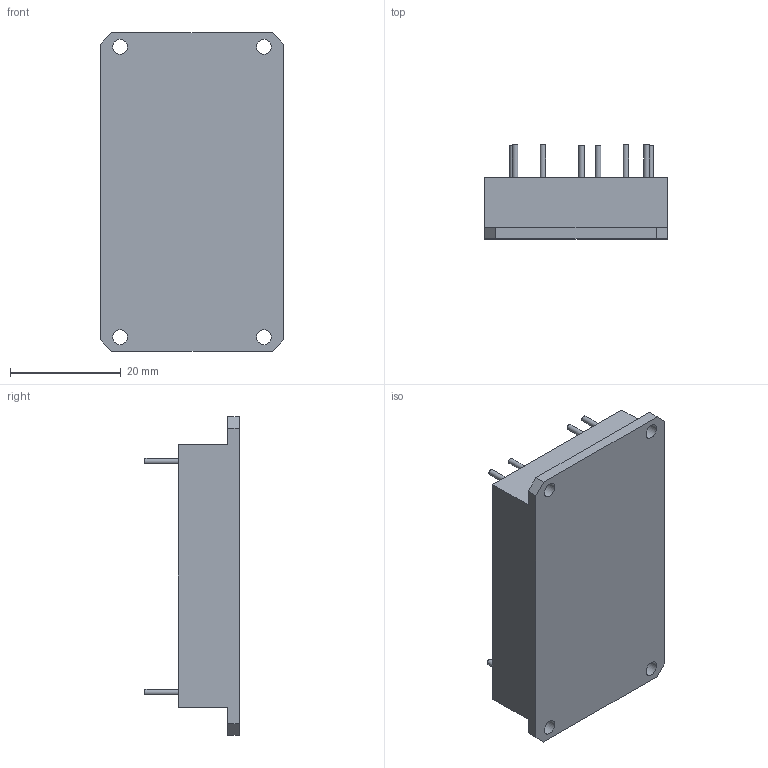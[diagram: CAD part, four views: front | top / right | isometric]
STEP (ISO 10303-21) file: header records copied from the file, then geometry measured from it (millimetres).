
FILE_DESCRIPTION(/* description */ (''),/* implementation_level */ '2;1');
FILE_NAME(/* name */ '',/* time_stamp */ '2020-02-18T13:51:53+01:00',/* author */ (''),/* organization */ (''),/* preprocessor_version */ 'ST-DEVELOPER v16.5',/* originating_system */ '',/* authorisation */ '');
FILE_SCHEMA (('AUTOMOTIVE_DESIGN { 1 0 10303 214 3 1 1 }'));
Length unit declared in the file: millimetre
Products named in the file (1): TESND60-F1_D_case_pins
Bounding box: 33 x 17 x 57.5 mm (x, y, z)
Volume: 16454.5 mm3; surface area: 5931.1 mm2
Topology: 1 solids, 2 shells, 45 faces, 99 edges, 66 vertices
Faces by surface type: plane 28, cylinder 16, cone 1
Full cylindrical faces by diameter (mm): 1 x8, 2.7 x4
Entity records: 1216 total; most frequent: DIRECTION 210, CARTESIAN_POINT 196, ORIENTED_EDGE 170, EDGE_CURVE 85, AXIS2_PLACEMENT_3D 79, EDGE_LOOP 74, VERTEX_POINT 65, LINE 52
